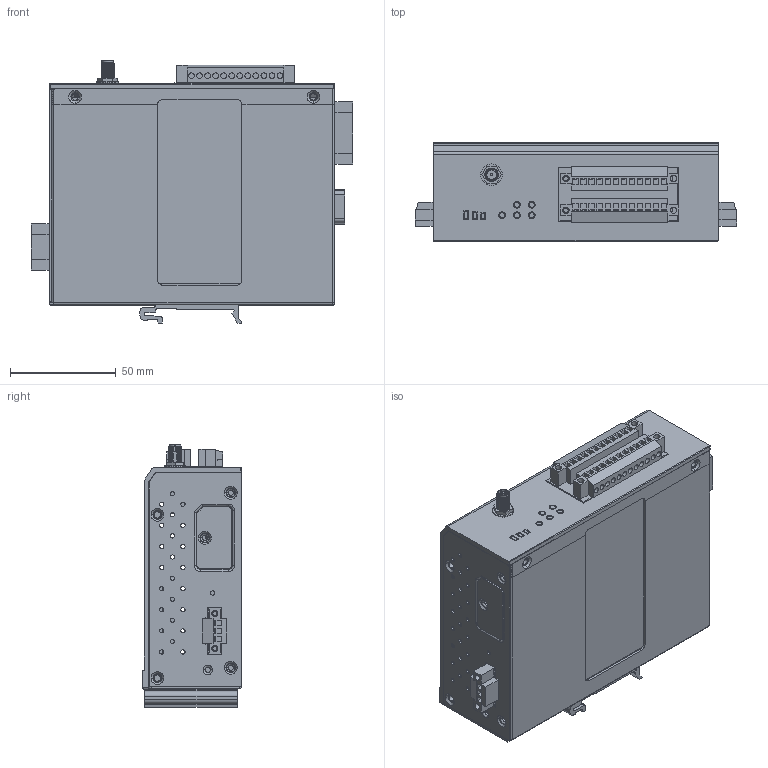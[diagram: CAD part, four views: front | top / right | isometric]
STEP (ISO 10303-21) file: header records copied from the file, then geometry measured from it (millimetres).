
FILE_DESCRIPTION((''),'2;1');
FILE_NAME('PRT0055','2011-02-21T',('Vincent_Huang'),(''),'PRO/ENGINEER BY PARAMETRIC TECHNOLOGY CORPORATION, 2004320','PRO/ENGINEER BY PARAMETRIC TECHNOLOGY CORPORATION, 2004320','');
FILE_SCHEMA(('CONFIG_CONTROL_DESIGN'));
Products named in the file (1): PRT0055
Bounding box: 152.2 x 46.8 x 124.6 mm (x, y, z)
Volume: 211604 mm3; surface area: 195650.7 mm2
Topology: 47 solids, 74 shells, 2874 faces, 7274 edges, 4770 vertices
Faces by surface type: plane 1808, cylinder 912, bspline 61, cone 60, torus 33
Entity records: 91135 total; most frequent: CARTESIAN_POINT 19832, DIRECTION 14930, ORIENTED_EDGE 14548, EDGE_CURVE 7274, AXIS2_PLACEMENT_3D 5045, VECTOR 4840, LINE 4840, VERTEX_POINT 4770
